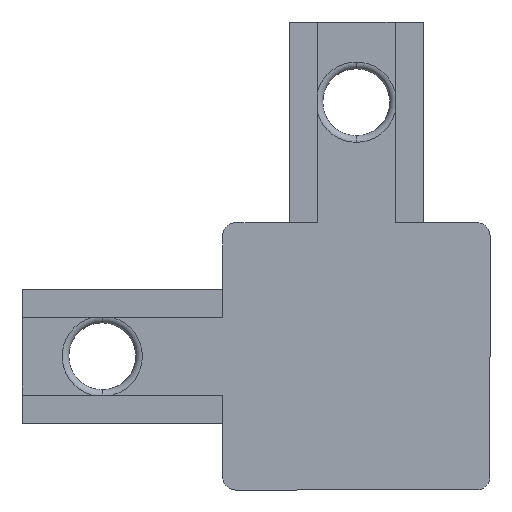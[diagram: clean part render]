
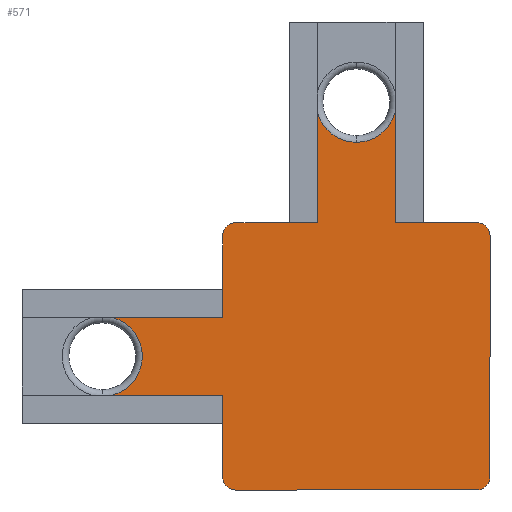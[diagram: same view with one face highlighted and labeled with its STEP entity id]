
A CAD part, front view. The second image highlights one B-rep face of the part: STEP entity #571.
In plain terms, the highlighted planar face has unit normal (0, -1, 0).
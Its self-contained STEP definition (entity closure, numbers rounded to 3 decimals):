
#17 = CARTESIAN_POINT ( 'NONE',  ( -0.225, 0., 24.687 ) ) ;
#54 = VERTEX_POINT ( 'NONE', #2108 ) ;
#84 = VERTEX_POINT ( 'NONE', #2805 ) ;
#90 = ORIENTED_EDGE ( 'NONE', *, *, #2746, .F. ) ;
#105 = EDGE_CURVE ( 'NONE', #2877, #155, #2096, .T. ) ;
#141 = VECTOR ( 'NONE', #2811, 1000. ) ;
#155 = VERTEX_POINT ( 'NONE', #1506 ) ;
#170 = CARTESIAN_POINT ( 'NONE',  ( -12.125, 0., 9.687 ) ) ;
#191 = CIRCLE ( 'NONE', #397, 1. ) ;
#203 = DIRECTION ( 'NONE',  ( 0., 0., 1. ) ) ;
#204 = VERTEX_POINT ( 'NONE', #2186 ) ;
#227 = VERTEX_POINT ( 'NONE', #1085 ) ;
#300 = ORIENTED_EDGE ( 'NONE', *, *, #1022, .F. ) ;
#301 = CARTESIAN_POINT ( 'NONE',  ( -12.125, 0., -10.313 ) ) ;
#304 = DIRECTION ( 'NONE',  ( 0., 1., 0. ) ) ;
#330 = VECTOR ( 'NONE', #2590, 1000. ) ;
#355 = LINE ( 'NONE', #170, #944 ) ;
#371 = EDGE_CURVE ( 'NONE', #1044, #501, #2513, .T. ) ;
#379 = CARTESIAN_POINT ( 'NONE',  ( -6.025, 0., 24.687 ) ) ;
#397 = AXIS2_PLACEMENT_3D ( 'NONE', #2147, #818, #2371 ) ;
#501 = VERTEX_POINT ( 'NONE', #2352 ) ;
#515 = CARTESIAN_POINT ( 'NONE',  ( -12.125, 0., 8.687 ) ) ;
#571 = ADVANCED_FACE ( 'NONE', ( #2089 ), #1847, .F. ) ;
#587 = ORIENTED_EDGE ( 'NONE', *, *, #105, .F. ) ;
#591 = ORIENTED_EDGE ( 'NONE', *, *, #1406, .F. ) ;
#601 = AXIS2_PLACEMENT_3D ( 'NONE', #515, #736, #2294 ) ;
#603 = CARTESIAN_POINT ( 'NONE',  ( -21.357, 0., -3.213 ) ) ;
#618 = CARTESIAN_POINT ( 'NONE',  ( -3.125, 0., 18.687 ) ) ;
#628 = DIRECTION ( 'NONE',  ( 0., 0., 1. ) ) ;
#645 = VECTOR ( 'NONE', #909, 1000. ) ;
#666 = DIRECTION ( 'NONE',  ( 1., 0., 0. ) ) ;
#687 = ORIENTED_EDGE ( 'NONE', *, *, #1743, .F. ) ;
#692 = CIRCLE ( 'NONE', #2594, 1. ) ;
#722 = ORIENTED_EDGE ( 'NONE', *, *, #371, .F. ) ;
#736 = DIRECTION ( 'NONE',  ( 0., 1., 0. ) ) ;
#740 = DIRECTION ( 'NONE',  ( 0., 1., 0. ) ) ;
#792 = EDGE_CURVE ( 'NONE', #2038, #2633, #923, .T. ) ;
#814 = VERTEX_POINT ( 'NONE', #2168 ) ;
#818 = DIRECTION ( 'NONE',  ( 0., 1., 0. ) ) ;
#820 = CARTESIAN_POINT ( 'NONE',  ( -21.357, 0., 2.588 ) ) ;
#827 = VERTEX_POINT ( 'NONE', #1299 ) ;
#837 = DIRECTION ( 'NONE',  ( 0., 0., 1. ) ) ;
#868 = CARTESIAN_POINT ( 'NONE',  ( -12.125, 0., -9.313 ) ) ;
#873 = LINE ( 'NONE', #2510, #2499 ) ;
#887 = LINE ( 'NONE', #2474, #1477 ) ;
#907 = CIRCLE ( 'NONE', #2509, 1. ) ;
#909 = DIRECTION ( 'NONE',  ( 0., 0., -1. ) ) ;
#919 = CARTESIAN_POINT ( 'NONE',  ( 6.875, 0., 8.687 ) ) ;
#923 = CIRCLE ( 'NONE', #2678, 3. ) ;
#944 = VECTOR ( 'NONE', #1047, 1000. ) ;
#964 = EDGE_CURVE ( 'NONE', #2633, #814, #1242, .T. ) ;
#1022 = EDGE_CURVE ( 'NONE', #204, #1044, #2720, .T. ) ;
#1044 = VERTEX_POINT ( 'NONE', #1367 ) ;
#1047 = DIRECTION ( 'NONE',  ( 1., 0., 0. ) ) ;
#1060 = CARTESIAN_POINT ( 'NONE',  ( -22.125, 0., -0.313 ) ) ;
#1061 = EDGE_CURVE ( 'NONE', #2038, #227, #887, .T. ) ;
#1068 = ORIENTED_EDGE ( 'NONE', *, *, #2417, .F. ) ;
#1085 = CARTESIAN_POINT ( 'NONE',  ( -13.125, 0., 2.588 ) ) ;
#1099 = DIRECTION ( 'NONE',  ( 0., 0., 1. ) ) ;
#1124 = ORIENTED_EDGE ( 'NONE', *, *, #964, .T. ) ;
#1164 = CARTESIAN_POINT ( 'NONE',  ( -12.125, 0., 9.687 ) ) ;
#1231 = CIRCLE ( 'NONE', #2568, 3. ) ;
#1242 = LINE ( 'NONE', #1769, #2345 ) ;
#1247 = ORIENTED_EDGE ( 'NONE', *, *, #1996, .T. ) ;
#1270 = CARTESIAN_POINT ( 'NONE',  ( 6.875, 0., -9.312 ) ) ;
#1288 = DIRECTION ( 'NONE',  ( 0., 0., 1. ) ) ;
#1299 = CARTESIAN_POINT ( 'NONE',  ( -6.025, 0., 17.919 ) ) ;
#1307 = ORIENTED_EDGE ( 'NONE', *, *, #2650, .T. ) ;
#1334 = LINE ( 'NONE', #379, #141 ) ;
#1358 = EDGE_CURVE ( 'NONE', #501, #2877, #191, .T. ) ;
#1367 = CARTESIAN_POINT ( 'NONE',  ( -0.225, 0., 9.687 ) ) ;
#1373 = VERTEX_POINT ( 'NONE', #2798 ) ;
#1388 = ORIENTED_EDGE ( 'NONE', *, *, #1557, .F. ) ;
#1406 = EDGE_CURVE ( 'NONE', #1373, #1904, #355, .T. ) ;
#1407 = DIRECTION ( 'NONE',  ( -1., 0., 0. ) ) ;
#1411 = ORIENTED_EDGE ( 'NONE', *, *, #792, .T. ) ;
#1477 = VECTOR ( 'NONE', #1803, 1000. ) ;
#1506 = CARTESIAN_POINT ( 'NONE',  ( 6.875, 0., -9.312 ) ) ;
#1531 = DIRECTION ( 'NONE',  ( 0., 1., 0. ) ) ;
#1550 = DIRECTION ( 'NONE',  ( 0., 0., 1. ) ) ;
#1557 = EDGE_CURVE ( 'NONE', #84, #814, #2295, .T. ) ;
#1560 = CARTESIAN_POINT ( 'NONE',  ( -13.125, 0., -9.312 ) ) ;
#1568 = VERTEX_POINT ( 'NONE', #2228 ) ;
#1631 = CARTESIAN_POINT ( 'NONE',  ( -3.125, 0., 18.687 ) ) ;
#1743 = EDGE_CURVE ( 'NONE', #155, #54, #1804, .T. ) ;
#1769 = CARTESIAN_POINT ( 'NONE',  ( -28.125, 0., -3.213 ) ) ;
#1795 = ORIENTED_EDGE ( 'NONE', *, *, #1809, .T. ) ;
#1803 = DIRECTION ( 'NONE',  ( 1., 0., 0. ) ) ;
#1804 = CIRCLE ( 'NONE', #2119, 1. ) ;
#1809 = EDGE_CURVE ( 'NONE', #204, #2413, #1231, .T. ) ;
#1847 = PLANE ( 'NONE',  #601 ) ;
#1853 = DIRECTION ( 'NONE',  ( 0., 0., 1. ) ) ;
#1904 = VERTEX_POINT ( 'NONE', #2115 ) ;
#1922 = VECTOR ( 'NONE', #2616, 1000. ) ;
#1996 = EDGE_CURVE ( 'NONE', #827, #1904, #1334, .T. ) ;
#2038 = VERTEX_POINT ( 'NONE', #820 ) ;
#2056 = ORIENTED_EDGE ( 'NONE', *, *, #2094, .F. ) ;
#2060 = ORIENTED_EDGE ( 'NONE', *, *, #2132, .F. ) ;
#2064 = CARTESIAN_POINT ( 'NONE',  ( 5.875, 0., -9.313 ) ) ;
#2089 = FACE_OUTER_BOUND ( 'NONE', #2686, .T. ) ;
#2094 = EDGE_CURVE ( 'NONE', #227, #1568, #2822, .T. ) ;
#2096 = LINE ( 'NONE', #1270, #330 ) ;
#2108 = CARTESIAN_POINT ( 'NONE',  ( 5.875, 0., -10.313 ) ) ;
#2115 = CARTESIAN_POINT ( 'NONE',  ( -6.025, 0., 9.687 ) ) ;
#2119 = AXIS2_PLACEMENT_3D ( 'NONE', #2064, #740, #2296 ) ;
#2132 = EDGE_CURVE ( 'NONE', #2449, #84, #907, .T. ) ;
#2145 = AXIS2_PLACEMENT_3D ( 'NONE', #618, #2164, #837 ) ;
#2147 = CARTESIAN_POINT ( 'NONE',  ( 5.875, 0., 8.687 ) ) ;
#2159 = VECTOR ( 'NONE', #628, 1000. ) ;
#2164 = DIRECTION ( 'NONE',  ( 0., 1., 0. ) ) ;
#2168 = CARTESIAN_POINT ( 'NONE',  ( -13.125, 0., -3.213 ) ) ;
#2181 = CARTESIAN_POINT ( 'NONE',  ( -13.125, 0., -9.312 ) ) ;
#2186 = CARTESIAN_POINT ( 'NONE',  ( -0.225, 0., 17.919 ) ) ;
#2228 = CARTESIAN_POINT ( 'NONE',  ( -13.125, 0., 8.687 ) ) ;
#2274 = ORIENTED_EDGE ( 'NONE', *, *, #1358, .F. ) ;
#2286 = CARTESIAN_POINT ( 'NONE',  ( -3.125, 0., 15.687 ) ) ;
#2294 = DIRECTION ( 'NONE',  ( 0., 0., 1. ) ) ;
#2295 = LINE ( 'NONE', #1560, #2823 ) ;
#2296 = DIRECTION ( 'NONE',  ( 0., 0., -1. ) ) ;
#2345 = VECTOR ( 'NONE', #666, 1000. ) ;
#2352 = CARTESIAN_POINT ( 'NONE',  ( 5.875, 0., 9.687 ) ) ;
#2356 = ORIENTED_EDGE ( 'NONE', *, *, #1061, .F. ) ;
#2371 = DIRECTION ( 'NONE',  ( 0., 0., 1. ) ) ;
#2413 = VERTEX_POINT ( 'NONE', #2286 ) ;
#2417 = EDGE_CURVE ( 'NONE', #54, #2449, #873, .T. ) ;
#2420 = DIRECTION ( 'NONE',  ( 0., 1., 0. ) ) ;
#2449 = VERTEX_POINT ( 'NONE', #301 ) ;
#2474 = CARTESIAN_POINT ( 'NONE',  ( -28.125, 0., 2.588 ) ) ;
#2499 = VECTOR ( 'NONE', #1407, 1000. ) ;
#2509 = AXIS2_PLACEMENT_3D ( 'NONE', #868, #2420, #1099 ) ;
#2510 = CARTESIAN_POINT ( 'NONE',  ( -12.125, 0., -10.313 ) ) ;
#2513 = LINE ( 'NONE', #1164, #1922 ) ;
#2568 = AXIS2_PLACEMENT_3D ( 'NONE', #1631, #304, #1853 ) ;
#2590 = DIRECTION ( 'NONE',  ( 0., 0., -1. ) ) ;
#2594 = AXIS2_PLACEMENT_3D ( 'NONE', #2865, #1531, #203 ) ;
#2609 = DIRECTION ( 'NONE',  ( 0., 1., 0. ) ) ;
#2616 = DIRECTION ( 'NONE',  ( 1., 0., 0. ) ) ;
#2633 = VERTEX_POINT ( 'NONE', #603 ) ;
#2650 = EDGE_CURVE ( 'NONE', #2413, #827, #2670, .T. ) ;
#2670 = CIRCLE ( 'NONE', #2145, 3. ) ;
#2678 = AXIS2_PLACEMENT_3D ( 'NONE', #1060, #2609, #1288 ) ;
#2686 = EDGE_LOOP ( 'NONE', ( #300, #1795, #1307, #1247, #591, #90, #2056, #2356, #1411, #1124, #1388, #2060, #1068, #687, #587, #2274, #722 ) ) ;
#2720 = LINE ( 'NONE', #17, #645 ) ;
#2746 = EDGE_CURVE ( 'NONE', #1568, #1373, #692, .T. ) ;
#2798 = CARTESIAN_POINT ( 'NONE',  ( -12.125, 0., 9.687 ) ) ;
#2805 = CARTESIAN_POINT ( 'NONE',  ( -13.125, 0., -9.312 ) ) ;
#2811 = DIRECTION ( 'NONE',  ( 0., 0., -1. ) ) ;
#2822 = LINE ( 'NONE', #2181, #2159 ) ;
#2823 = VECTOR ( 'NONE', #1550, 1000. ) ;
#2865 = CARTESIAN_POINT ( 'NONE',  ( -12.125, 0., 8.687 ) ) ;
#2877 = VERTEX_POINT ( 'NONE', #919 ) ;
